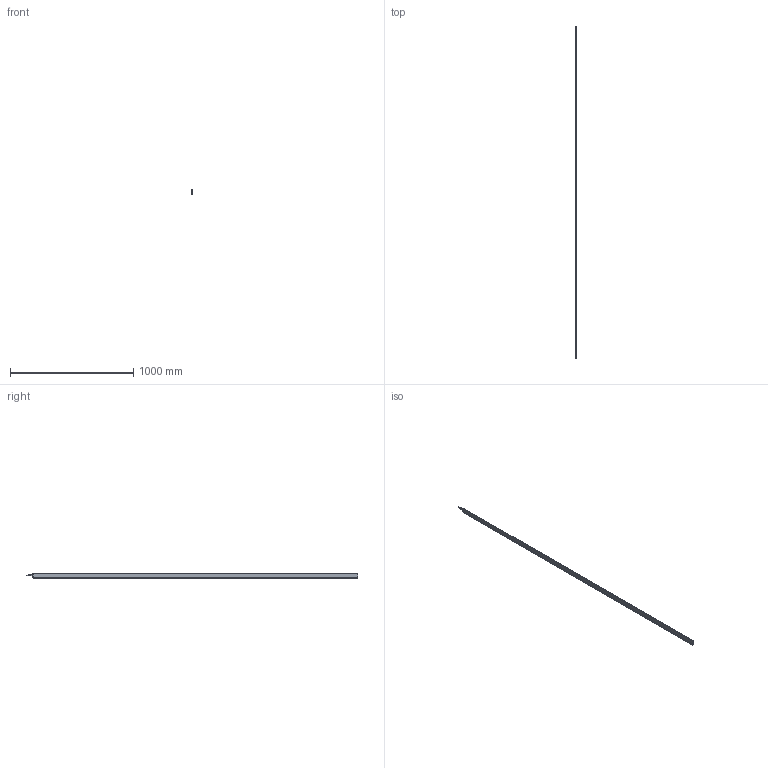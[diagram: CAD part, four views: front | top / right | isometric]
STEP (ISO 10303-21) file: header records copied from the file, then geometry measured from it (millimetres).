
FILE_DESCRIPTION (( 'STEP AP214' ), '1' );
FILE_NAME ('ILG-L-K2-2640mm.STEP', '2017-07-11T08:48:04', ( '' ), ( '' ), 'SwSTEP 2.0', 'SolidWorks 2016', '' );
FILE_SCHEMA (( 'AUTOMOTIVE_DESIGN' ));
Length unit declared in the file: millimetre
Products named in the file (1): ILG-L-K2-2640mm
Bounding box: 9 x 2694.5 x 40.71 mm (x, y, z)
Surface area: 519828.6 mm2 (no closed solid volume)
Topology: 0 solids, 13 shells, 681 faces, 1786 edges, 1135 vertices
Faces by surface type: cylinder 288, plane 255, cone 90, bspline 32, torus 16
Entity records: 30628 total; most frequent: CARTESIAN_POINT 6489, ORIENTED_EDGE 3525, DIRECTION 3406, EDGE_CURVE 1770, AXIS2_PLACEMENT_3D 1301, VERTEX_POINT 1135, LINE 804, VECTOR 804
